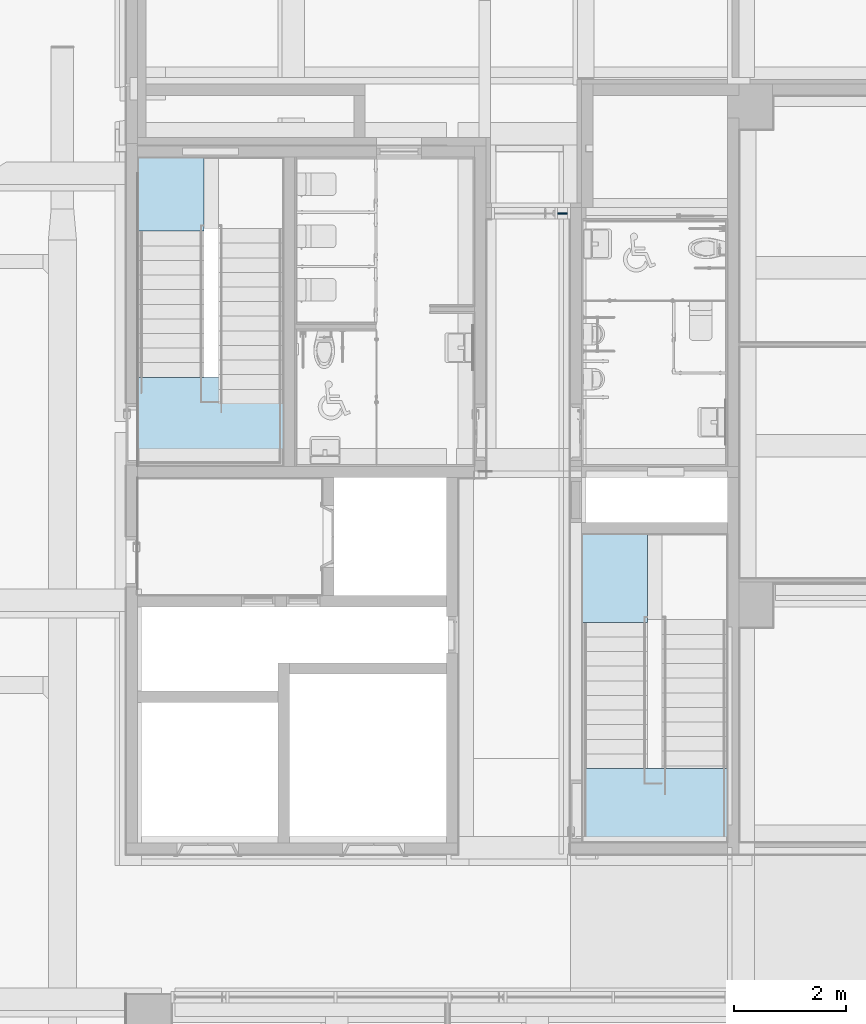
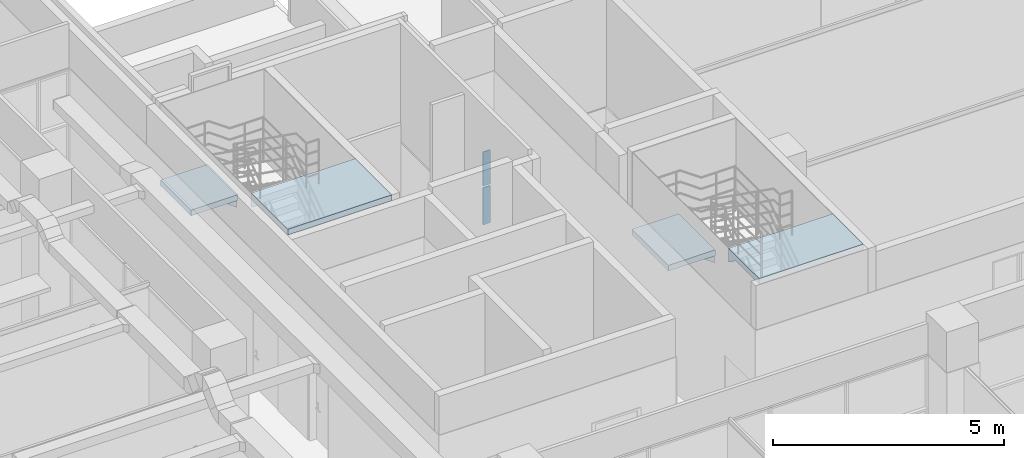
# One storey, part 29 of 100: 4 slabs, 2 plates, 3 elements without a shape of their own.
"""IFC2X3 building model written with IfcOpenShell, lengths in millimetres."""

import ifcopenshell
import ifcopenshell.guid

model = None  # the IFC model being written
_history = None  # IfcOwnerHistory: only IFC2X3 demands one
_inside = {}  # id of a spatial element -> (the spatial element, [elements in it])
_under = {}  # id of a project, library or spatial element -> (it, [spatial elements below it])
_declared = {}  # id of a project -> (the project, [libraries it declares])
_typed = {}  # id of a type object -> (the type object, [elements of that type])
_made_of = {}  # id of a material, layer set ... -> (it, [elements and type objects made of it])


def new_model(schema):
    """Start an empty IFC model of exactly this schema.

    Asked for "IFC4X3", IfcOpenShell would pick the latest addendum, in which some entities
    have other attributes; the version numbers below select the first issue.
    IFC2X3 requires an IfcOwnerHistory on every rooted entity: one is made here for all.
    """
    global model, _history
    if schema == "IFC4X3":
        model = ifcopenshell.file(schema_version=(4, 3, 0, 0))
    else:
        model = ifcopenshell.file(schema=schema)
    _inside.clear()
    _under.clear()
    _declared.clear()
    _typed.clear()
    _made_of.clear()
    _history = None
    if model.schema == "IFC2X3":
        org = make("IfcOrganization", Name="unknown")
        user = make(
            "IfcPersonAndOrganization",
            ThePerson=make("IfcPerson", FamilyName="unknown"),
            TheOrganization=org,
        )
        app = make(
            "IfcApplication",
            ApplicationDeveloper=org,
            Version="unknown",
            ApplicationFullName="unknown",
            ApplicationIdentifier="unknown",
        )
        _history = make(
            "IfcOwnerHistory",
            OwningUser=user,
            OwningApplication=app,
            ChangeAction="ADDED",
            CreationDate=0,
        )
    return model


def make(cls, **values):
    """One entity of the class cls with the attributes given. An attribute that is None is left unset."""
    return model.create_entity(
        cls, **{name: value for name, value in values.items() if value is not None}
    )


def entity(cls, *values):
    """Any entity or typed value of the class cls, its attributes in the order of the schema. None: left unset."""
    e = model.create_entity(cls)
    for i, value in enumerate(values):
        if value is not None:
            e[i] = value
    return e


def rooted(cls, **values):
    """An entity with a GlobalId (a new one), such as an element, a storey or a relation."""
    return make(cls, GlobalId=ifcopenshell.guid.new(), OwnerHistory=_history, **values)


def si_unit(unit_type, name, prefix=None):
    """IfcSIUnit, for example si_unit("LENGTHUNIT", "METRE", prefix="MILLI")."""
    return make("IfcSIUnit", UnitType=unit_type, Prefix=prefix, Name=name)


def converted_unit(unit_type, name, factor, base, dimensions=None, offset=None):
    """IfcConversionBasedUnit, such as the inch: factor (a typed value) times the base unit."""
    return make(
        "IfcConversionBasedUnit"
        if offset is None
        else "IfcConversionBasedUnitWithOffset",
        ConversionOffset=offset,
        Dimensions=None
        if dimensions is None
        else entity("IfcDimensionalExponents", *dimensions),
        UnitType=unit_type,
        Name=name,
        ConversionFactor=make(
            "IfcMeasureWithUnit", ValueComponent=factor, UnitComponent=base
        ),
    )


def derived_unit(unit_type, elements):
    """IfcDerivedUnit: a product of units, each with its exponent."""
    return make(
        "IfcDerivedUnit",
        Elements=[
            make("IfcDerivedUnitElement", Unit=unit, Exponent=power)
            for unit, power in elements
        ],
        UnitType=unit_type,
    )


def assignment(units):
    """IfcUnitAssignment: the units of a project."""
    return None if units is None else make("IfcUnitAssignment", Units=units)


def point(xyz):
    """IfcCartesianPoint."""
    return None if xyz is None else make("IfcCartesianPoint", Coordinates=xyz)


def direction(xyz):
    """IfcDirection."""
    return None if xyz is None else make("IfcDirection", DirectionRatios=xyz)


def frame(location, z_axis=None, x_axis=None):
    """IfcAxis2Placement3D, a coordinate frame: its origin and axes. An axis left out is left unset."""
    return make(
        "IfcAxis2Placement3D",
        Location=point(location),
        Axis=direction(z_axis),
        RefDirection=direction(x_axis),
    )


def frame_2d(location, x_axis=None):
    """IfcAxis2Placement2D, a coordinate frame in the plane: its origin and x axis."""
    return make(
        "IfcAxis2Placement2D", Location=point(location), RefDirection=direction(x_axis)
    )


def origin():
    """The frame at (0, 0, 0) with its axes left unset."""
    return frame((0.0, 0.0, 0.0))


def origin_2d_with_axis():
    """The frame at (0, 0) in the plane with the x axis (1, 0) written out."""
    return frame_2d((0.0, 0.0), x_axis=(1.0, 0.0))


def place(relative_to, where):
    """IfcLocalPlacement: puts the frame where relative to a parent placement (None: the world)."""
    return make(
        "IfcLocalPlacement", PlacementRelTo=relative_to, RelativePlacement=where
    )


def context(
    kind, dimensions, precision=None, world=None, true_north=None, identifier=None
):
    """IfcGeometricRepresentationContext, for example the 3D "Model" context."""
    return make(
        "IfcGeometricRepresentationContext",
        ContextIdentifier=identifier,
        ContextType=kind,
        CoordinateSpaceDimension=dimensions,
        Precision=precision,
        WorldCoordinateSystem=world,
        TrueNorth=true_north,
    )


def subcontext(parent, identifier, kind, view, scale=None):
    """IfcGeometricRepresentationSubContext, for example "Body" below "Model"."""
    return make(
        "IfcGeometricRepresentationSubContext",
        ContextIdentifier=identifier,
        ContextType=kind,
        ParentContext=parent,
        TargetScale=scale,
        TargetView=view,
    )


def project(units=None, contexts=None):
    """IfcProject with its units and contexts."""
    return rooted(
        "IfcProject",
        Name="project",
        RepresentationContexts=contexts,
        UnitsInContext=assignment(units),
    )


def spatial(cls, under=None, at=None, **own):
    """A site, building, storey or space (cls), placed at a placement, below another one or the project."""
    s = rooted(cls, ObjectPlacement=at, **own)
    if under is not None:
        _under.setdefault(under.id(), (under, []))[1].append(s)
    return s


def profile(cls, at=None, kind="AREA", **sizes):
    """A parametric profile (cls). Its sizes go by their IFC names, for example OverallWidth=200.0."""
    return make(cls, ProfileType=kind, Position=at, **sizes)


def rectangle(**sizes):
    """IfcRectangleProfileDef."""
    return profile("IfcRectangleProfileDef", **sizes)


def extrude(swept, where, along, depth):
    """IfcExtrudedAreaSolid: the profile swept, set in the frame where, extruded along a direction by depth."""
    return make(
        "IfcExtrudedAreaSolid",
        SweptArea=swept,
        Position=where,
        ExtrudedDirection=direction(along),
        Depth=depth,
    )


def faces_of(points, faces, orient=None, outer=None):
    """IfcFace entities. A face is a list of loops; a loop is a list of indices into points, from 0.

    orient and outer hold one flag for each loop. By default every Orientation is true, the
    first loop of a face is its IfcFaceOuterBound and the others are IfcFaceBound.
    """
    made = []
    for i, loops in enumerate(faces):
        bounds = []
        for j, loop in enumerate(loops):
            is_outer = j == 0 if outer is None else outer[i][j]
            bounds.append(
                make(
                    "IfcFaceOuterBound" if is_outer else "IfcFaceBound",
                    Bound=make("IfcPolyLoop", Polygon=[points[k] for k in loop]),
                    Orientation=True if orient is None else orient[i][j],
                )
            )
        made.append(make("IfcFace", Bounds=bounds))
    return made


def faceted_brep(points, faces, orient=None, outer=None, voids=None):
    """IfcFacetedBrep: a solid bounded by flat faces; with voids (closed shells), ...WithVoids."""
    shared = [point(p) for p in points]
    hull = make("IfcClosedShell", CfsFaces=faces_of(shared, faces, orient, outer))
    if voids is None:
        return make("IfcFacetedBrep", Outer=hull)
    return make(
        "IfcFacetedBrepWithVoids",
        Outer=hull,
        Voids=[
            make(cls, CfsFaces=faces_of(shared, fs, o, b)) for cls, fs, o, b in voids
        ],
    )


def shape(context_of_items, identifier, shape_type, items):
    """IfcShapeRepresentation: the items that make up one representation, for example the "Body"."""
    return make(
        "IfcShapeRepresentation",
        ContextOfItems=context_of_items,
        RepresentationIdentifier=identifier,
        RepresentationType=shape_type,
        Items=items,
    )


def source(mapping_origin, context_of_items, identifier, shape_type, items):
    """IfcRepresentationMap: a shape defined once, which mapped items show again and again."""
    return make(
        "IfcRepresentationMap",
        MappingOrigin=mapping_origin,
        MappedRepresentation=shape(context_of_items, identifier, shape_type, items),
    )


def transform(
    local_origin,
    x_axis=None,
    y_axis=None,
    z_axis=None,
    scale=None,
    scale2=None,
    scale3=None,
    uniform=True,
):
    """IfcCartesianTransformationOperator3D, or its non-uniform kind. x_axis, y_axis, z_axis: its Axis1, 2, 3."""
    if uniform:
        return make(
            "IfcCartesianTransformationOperator3D",
            Axis1=direction(x_axis),
            Axis2=direction(y_axis),
            LocalOrigin=point(local_origin),
            Scale=scale,
            Axis3=direction(z_axis),
        )
    return make(
        "IfcCartesianTransformationOperator3DnonUniform",
        Axis1=direction(x_axis),
        Axis2=direction(y_axis),
        LocalOrigin=point(local_origin),
        Scale=scale,
        Axis3=direction(z_axis),
        Scale2=scale2,
        Scale3=scale3,
    )


def mapped(mapping_source, mapping_target):
    """IfcMappedItem: shows the shape of a source again, moved by a transform."""
    return make(
        "IfcMappedItem", MappingSource=mapping_source, MappingTarget=mapping_target
    )


def material(Name=None, Category=None):
    """IfcMaterial."""
    return make("IfcMaterial", Name=Name, Category=Category)


def made_of(thing, what):
    """Note that an element or type object is made of a material, layer set ...; save() writes the relation."""
    if what is not None:
        _made_of.setdefault(what.id(), (what, []))[1].append(thing)
    return thing


def type_object(cls, material=None, **own):
    """A type object (cls), such as IfcWallType, which elements share."""
    return made_of(rooted(cls, **own), material)


def type_shapes(of_type, sources):
    """Give a type object the sources (RepresentationMaps) that its elements show as mapped items."""
    of_type.RepresentationMaps = sources


def element(
    cls,
    number,
    at=None,
    inside=None,
    cuts=None,
    type_object=None,
    material=None,
    context=None,
    identifier="Body",
    shape_type=None,
    held_by="IfcProductDefinitionShape",
    body=None,
    shapes=None,
    **own,
):
    """One element of the class cls, such as IfcWall. Its Tag is "e" and its number.

    at: its placement. inside: the storey or other place that contains it. cuts: it is an
    opening in that element (IfcRelVoidsElement). A single representation is given by context,
    identifier, shape_type and body (its items); several are given by shapes. held_by: the class
    of the entity that holds the representations. save() writes the other relations.
    """
    e = rooted(cls, Tag="e%d" % number, ObjectPlacement=at, **own)
    if body is not None:
        shapes = [shape(context, identifier, shape_type, body)]
    if shapes is not None:
        e.Representation = make(held_by, Representations=shapes)
    if inside is not None:
        _inside.setdefault(inside.id(), (inside, []))[1].append(e)
    if cuts is not None:
        rooted(
            "IfcRelVoidsElement", RelatingBuildingElement=cuts, RelatedOpeningElement=e
        )
    if type_object is not None:
        _typed.setdefault(type_object.id(), (type_object, []))[1].append(e)
    return made_of(e, material)


def aggregate(whole, parts):
    """IfcRelAggregates: a whole, such as a stair, and the parts it consists of."""
    return rooted("IfcRelAggregates", RelatingObject=whole, RelatedObjects=parts)


def save(model, path):
    """Write the relations noted so far, then the file.

    IfcRelAggregates (storeys below a building ...), IfcRelContainedInSpatialStructure (elements
    in a storey), IfcRelDefinesByType, IfcRelAssociatesMaterial and IfcRelDeclares: one each for
    every whole, place, type object, material and project.
    """
    for whole, parts in _under.values():
        aggregate(whole, parts)
    for where, things in _inside.values():
        rooted(
            "IfcRelContainedInSpatialStructure",
            RelatedElements=things,
            RelatingStructure=where,
        )
    for kind, things in _typed.values():
        rooted("IfcRelDefinesByType", RelatedObjects=things, RelatingType=kind)
    for what, things in _made_of.values():
        rooted("IfcRelAssociatesMaterial", RelatedObjects=things, RelatingMaterial=what)
    for by, libraries in _declared.values():
        rooted("IfcRelDeclares", RelatingContext=by, RelatedDefinitions=libraries)
    model.write(path)


model = new_model("IFC2X3")

# Units and contexts
model_context = context("Model", 3, precision=0.01, world=origin(), true_north=direction((6.123031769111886e-17, 1.0)))
body_context = subcontext(model_context, "Body", "Model", "MODEL_VIEW")
ifc_project = project(units=[si_unit("LENGTHUNIT", "METRE", prefix="MILLI"), si_unit("AREAUNIT", "SQUARE_METRE"), si_unit("VOLUMEUNIT", "CUBIC_METRE"), converted_unit("PLANEANGLEUNIT", "DEGREE", entity("IfcRatioMeasure", 0.017453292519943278), si_unit("PLANEANGLEUNIT", "RADIAN"), dimensions=[0, 0, 0, 0, 0, 0, 0]), si_unit("MASSUNIT", "GRAM", prefix="KILO"), derived_unit("MASSDENSITYUNIT", [(si_unit("MASSUNIT", "GRAM", prefix="KILO"), 1), (si_unit("LENGTHUNIT", "METRE"), -3)]), derived_unit("MOMENTOFINERTIAUNIT", [(si_unit("LENGTHUNIT", "METRE"), 4)]), si_unit("TIMEUNIT", "SECOND"), si_unit("FREQUENCYUNIT", "HERTZ"), si_unit("THERMODYNAMICTEMPERATUREUNIT", "DEGREE_CELSIUS"), derived_unit("THERMALTRANSMITTANCEUNIT", [(si_unit("MASSUNIT", "GRAM", prefix="KILO"), 1), (si_unit("THERMODYNAMICTEMPERATUREUNIT", "KELVIN"), -1), (si_unit("TIMEUNIT", "SECOND"), -3)]), derived_unit("VOLUMETRICFLOWRATEUNIT", [(si_unit("LENGTHUNIT", "METRE"), 3), (si_unit("TIMEUNIT", "SECOND"), -1)]), derived_unit("MASSFLOWRATEUNIT", [(si_unit("MASSUNIT", "GRAM", prefix="KILO"), 1), (si_unit("TIMEUNIT", "SECOND"), -1)]), derived_unit("ROTATIONALFREQUENCYUNIT", [(si_unit("TIMEUNIT", "SECOND"), -1)]), si_unit("ELECTRICCURRENTUNIT", "AMPERE"), si_unit("ELECTRICVOLTAGEUNIT", "VOLT"), si_unit("POWERUNIT", "WATT"), si_unit("FORCEUNIT", "NEWTON", prefix="KILO"), si_unit("ILLUMINANCEUNIT", "LUX"), si_unit("LUMINOUSFLUXUNIT", "LUMEN"), si_unit("LUMINOUSINTENSITYUNIT", "CANDELA"), derived_unit("USERDEFINED", [(si_unit("MASSUNIT", "GRAM", prefix="KILO"), -1), (si_unit("LENGTHUNIT", "METRE"), -2), (si_unit("TIMEUNIT", "SECOND"), 3), (si_unit("LUMINOUSFLUXUNIT", "LUMEN"), 1)]), derived_unit("SOUNDPOWERUNIT", [(si_unit("MASSUNIT", "GRAM", prefix="KILO"), 1), (si_unit("LENGTHUNIT", "METRE"), 2), (si_unit("TIMEUNIT", "SECOND"), -3)]), derived_unit("SOUNDPRESSUREUNIT", [(si_unit("MASSUNIT", "GRAM", prefix="KILO"), 1), (si_unit("LENGTHUNIT", "METRE"), -1), (si_unit("TIMEUNIT", "SECOND"), -2)]), derived_unit("LINEARVELOCITYUNIT", [(si_unit("LENGTHUNIT", "METRE"), 1), (si_unit("TIMEUNIT", "SECOND"), -1)]), si_unit("PRESSUREUNIT", "PASCAL"), derived_unit("USERDEFINED", [(si_unit("LENGTHUNIT", "METRE"), -2), (si_unit("MASSUNIT", "GRAM", prefix="KILO"), 1), (si_unit("TIMEUNIT", "SECOND"), -2)]), derived_unit("LINEARFORCEUNIT", [(si_unit("MASSUNIT", "GRAM", prefix="KILO"), 1), (si_unit("LENGTHUNIT", "METRE"), 1), (si_unit("TIMEUNIT", "SECOND"), -2), (si_unit("LENGTHUNIT", "METRE"), -1)]), derived_unit("PLANARFORCEUNIT", [(si_unit("MASSUNIT", "GRAM", prefix="KILO"), 1), (si_unit("LENGTHUNIT", "METRE"), 1), (si_unit("TIMEUNIT", "SECOND"), -2), (si_unit("LENGTHUNIT", "METRE"), -2)])], contexts=[model_context])

# Site, building, storey
site_placement = place(None, frame((-14167.972527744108, -657.2125860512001, 0.0)))
site = spatial("IfcSite", under=ifc_project, at=site_placement, Name="Default", CompositionType="ELEMENT")
building_placement = place(site_placement, origin())
building = spatial("IfcBuilding", under=site, at=building_placement, Name="Sample Building", CompositionType="ELEMENT")
storey_placement = place(building_placement, origin())
storey = spatial("IfcBuildingStorey", under=building, at=storey_placement, Name="지상 1층", CompositionType="ELEMENT", Elevation=0.0)

# Curtain wall, plates
curtain_wall_type = type_object("IfcCurtainWallType", Name="커튼월:CW112-스테인리스 스틸 커튼월", PredefinedType="NOTDEFINED")
curtain_wall_placement = place(storey_placement, origin())
curtain_wall = element("IfcCurtainWall", 1, at=curtain_wall_placement, inside=storey, type_object=curtain_wall_type, Name="커튼월:CW112-스테인리스 스틸 커튼월", ObjectType="커튼월:CW112-스테인리스 스틸 커튼월")
ifc_material_1 = material(Name="KBIMS-로이유리(코팅)")
plate_type_1 = type_object("IfcPlateType", Name="CW300-THK24.Low-e coating glass:CW300-THK24.Low-e coating glass", PredefinedType="CURTAIN_PANEL", material=ifc_material_1)
shared_shape_1 = source(origin(), body_context, "Body", "SweptSolid", [
    extrude(rectangle(XDim=175.00000000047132, YDim=24.000000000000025, at=origin_2d_with_axis()), frame((0.0, 0.0, 0.0), z_axis=(0.0, 0.0, 1.0), x_axis=(-1.0, 0.0, 0.0)), (0.0, 0.0, 1.0), 975.0000000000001),
])
type_shapes(plate_type_1, [shared_shape_1])
plate_1_placement = place(curtain_wall_placement, frame((37830.46379814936, 26957.21229514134, -420.0)))
plate_1 = element("IfcPlate", 2, at=plate_1_placement, type_object=plate_type_1, material=ifc_material_1, Name="CW300-THK24.Low-e coating glass:CW300-THK24.Low-e coating glass", ObjectType="CW300-THK24.Low-e coating glass:CW300-THK24.Low-e coating glass", context=body_context, shape_type="MappedRepresentation", body=[
    mapped(shared_shape_1, transform((0.0, 0.0, 0.0), scale=1.0)),
])
plate_type_2 = type_object("IfcPlateType", Name="CW300-THK24.Low-e coating glass:CW300-THK24.Low-e coating glass", PredefinedType="CURTAIN_PANEL", material=ifc_material_1)
shared_shape_2 = source(origin(), body_context, "Body", "SweptSolid", [
    extrude(rectangle(XDim=175.00000000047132, YDim=24.000000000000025, at=origin_2d_with_axis()), frame((0.0, 0.0, 0.0), z_axis=(0.0, 0.0, 1.0), x_axis=(-1.0, 0.0, 0.0)), (0.0, 0.0, 1.0), 895.0000000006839),
])
type_shapes(plate_type_2, [shared_shape_2])
plate_2_placement = place(curtain_wall_placement, frame((37830.46379814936, 26957.21229514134, 605.0)))
plate_2 = element("IfcPlate", 3, at=plate_2_placement, type_object=plate_type_2, material=ifc_material_1, Name="CW300-THK24.Low-e coating glass:CW300-THK24.Low-e coating glass", ObjectType="CW300-THK24.Low-e coating glass:CW300-THK24.Low-e coating glass", context=body_context, shape_type="MappedRepresentation", body=[
    mapped(shared_shape_2, transform((0.0, 0.0, 0.0), scale=1.0)),
])
aggregate(curtain_wall, [plate_1, plate_2])

# Stair, slabs
stair_1_placement = place(storey_placement, origin())
stair_1 = element("IfcStair", 4, at=stair_1_placement, inside=storey, Name="현장타설 계단:계단", ObjectType="현장타설 계단:ST111-철근콘크리트구조 계단 (U형)", ShapeType="NOTDEFINED")
ifc_material_2 = material(Name="KBIMS-콘크리트")
slab_type_1 = type_object("IfcSlabType", Name="일체형 계단참:일체형 계단참 150mm_철근콘크리트", PredefinedType="LANDING")
slab_1_placement = place(stair_1_placement, frame((30276.125814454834, 26639.725729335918, 0.0)))
slab_1 = element("IfcSlab", 5, at=slab_1_placement, type_object=slab_type_1, material=ifc_material_2, Name="현장타설 계단:계단:5949467 Landing 2", ObjectType="일체형 계단참:일체형 계단참 150mm_철근콘크리트", PredefinedType="LANDING", context=body_context, shape_type="Brep", body=[
    faceted_brep([(1171.8545000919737, 47.48657865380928, 2769.230769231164), (1171.8545000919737, 1317.4865786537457, 2769.230769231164), (864.0165565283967, 1317.4865786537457, 2769.230769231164), (0.0, 1317.4865786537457, 2769.230769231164), (0.0, 0.0, 2769.230769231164), (1171.8545000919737, 0.0, 2769.230769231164), (0.0, 1317.4865786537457, 2619.230769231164), (0.0, 0.0, 2619.230769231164), (1171.8545000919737, 0.0, 2619.230769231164), (1171.8545000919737, 47.48657865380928, 2619.230769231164), (864.0165565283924, 1317.4865786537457, 2619.230769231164), (864.0165565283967, 47.48657865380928, 2619.230769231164), (1171.8545000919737, 1317.4865786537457, 2400.6476140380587), (1171.8545000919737, 47.48657865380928, 2400.647614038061), (1171.8545000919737, 47.48657865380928, 2584.6153846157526), (1171.8545000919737, 1317.4865786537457, 2584.6153846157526)], [[[0, 1, 2, 3, 4, 5]], [[4, 3, 6, 7]], [[0, 5, 8, 9]], [[10, 11, 9, 8, 7, 6]], [[11, 10, 12, 13]], [[9, 11, 13, 14]], [[1, 0, 9, 14, 13, 12, 15]], [[1, 15, 12, 10, 6, 3, 2]], [[5, 4, 7, 8]]]),
])
slab_type_2 = type_object("IfcSlabType", Name="일체형 계단참:일체형 계단참 150mm_철근콘크리트", PredefinedType="LANDING")
slab_2_placement = place(stair_1_placement, frame((30276.125814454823, 22457.21231133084, 0.0)))
slab_2 = element("IfcSlab", 6, at=slab_2_placement, type_object=slab_type_2, material=ifc_material_2, Name="현장타설 계단:계단:5949467 Landing 3", ObjectType="일체형 계단참:일체형 계단참 150mm_철근콘크리트", PredefinedType="LANDING", context=body_context, shape_type="Brep", body=[
    faceted_brep([(1171.854500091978, 1582.5134180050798, 4800.0), (0.0, 1582.5134180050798, 4800.0), (0.0, 1274.6754744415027, 4800.0), (0.0, 0.0, 4800.0), (2601.8466766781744, 0.0, 4800.0), (2601.8466766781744, 1582.5134180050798, 4800.0), (0.0, 1582.5134180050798, 4615.384615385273), (0.0, 1582.513418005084, 4431.416844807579), (0.0, 1274.6754744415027, 4650.0), (0.0, 0.0, 4650.0), (2601.8466766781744, 0.0, 4650.0), (2601.8466766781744, 1582.5134180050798, 4650.0), (1171.854500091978, 1274.6754744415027, 4650.0), (1171.854500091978, 1582.5134180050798, 4650.0), (1171.854500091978, 1582.5134180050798, 4615.384615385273), (1171.854500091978, 1582.5134180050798, 4431.416844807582)], [[[0, 1, 2, 3, 4, 5]], [[1, 6, 7, 8, 9, 3, 2]], [[4, 3, 9, 10]], [[5, 4, 10, 11]], [[8, 12, 13, 11, 10, 9]], [[1, 0, 13, 14, 15, 7, 6]], [[0, 5, 11, 13]], [[12, 8, 7, 15]], [[13, 12, 15, 14]]]),
])
aggregate(stair_1, [slab_1, slab_2])

stair_2_placement = place(storey_placement, origin())
stair_2 = element("IfcStair", 7, at=stair_2_placement, inside=storey, Name="현장타설 계단:계단", ObjectType="현장타설 계단:ST111-철근콘크리트구조 계단 (U형)", ShapeType="NOTDEFINED")
slab_type_3 = type_object("IfcSlabType", Name="일체형 계단참:일체형 계단참 150mm_철근콘크리트", PredefinedType="LANDING")
slab_3_placement = place(stair_2_placement, frame((38167.96379814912, 19679.725713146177, 0.0)))
slab_3 = element("IfcSlab", 8, at=slab_3_placement, type_object=slab_type_3, material=ifc_material_2, Name="현장타설 계단:계단:5959493 Landing 2", ObjectType="일체형 계단참:일체형 계단참 150mm_철근콘크리트", PredefinedType="LANDING", context=body_context, shape_type="Brep", body=[
    faceted_brep([(1171.854500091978, 47.486578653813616, 2769.230769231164), (1171.854500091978, 1577.4865786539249, 2769.230769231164), (864.0165565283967, 1577.4865786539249, 2769.230769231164), (0.0, 1577.4865786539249, 2769.230769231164), (0.0, 0.0, 2769.230769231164), (1171.8545000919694, 0.0, 2769.230769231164), (0.0, 1577.4865786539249, 2619.230769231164), (0.0, 0.0, 2619.230769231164), (1171.8545000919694, 0.0, 2619.230769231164), (1171.854500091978, 47.486578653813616, 2619.230769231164), (864.0165565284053, 1577.4865786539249, 2619.230769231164), (864.0165565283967, 47.486578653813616, 2619.230769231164), (1171.854500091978, 1577.4865786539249, 2400.6476140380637), (1171.854500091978, 47.486578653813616, 2400.647614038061), (1171.854500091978, 47.486578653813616, 2584.6153846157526), (1171.854500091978, 1577.4865786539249, 2584.6153846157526)], [[[0, 1, 2, 3, 4, 5]], [[4, 3, 6, 7]], [[0, 5, 8, 9]], [[10, 11, 9, 8, 7, 6]], [[11, 10, 12, 13]], [[9, 11, 13, 14]], [[1, 0, 9, 14, 13, 12, 15]], [[1, 15, 12, 10, 6, 3, 2]], [[5, 4, 7, 8]]]),
])
slab_type_4 = type_object("IfcSlabType", Name="일체형 계단참:일체형 계단참 150mm_철근콘크리트", PredefinedType="LANDING")
slab_4_placement = place(stair_2_placement, frame((38167.96379814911, 15757.212295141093, 0.0)))
slab_4 = element("IfcSlab", 9, at=slab_4_placement, type_object=slab_type_4, material=ifc_material_2, Name="현장타설 계단:계단:5959493 Landing 3", ObjectType="일체형 계단참:일체형 계단참 150mm_철근콘크리트", PredefinedType="LANDING", context=body_context, shape_type="Brep", body=[
    faceted_brep([(1171.8545000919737, 1322.5134180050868, 4800.0), (0.0, 1322.5134180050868, 4800.0), (0.0, 1014.67547444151, 4800.0), (0.0, 0.0, 4800.0), (2601.8466766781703, 0.0, 4800.0), (2601.8466766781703, 1322.5134180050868, 4800.0), (0.0, 1322.5134180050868, 4615.384615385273), (0.0, 1322.5134180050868, 4431.416844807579), (0.0, 1014.6754744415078, 4650.0), (0.0, 0.0, 4650.0), (2601.8466766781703, 0.0, 4650.0), (2601.8466766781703, 1322.5134180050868, 4650.0), (1171.854500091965, 1014.67547444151, 4650.0), (1171.8545000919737, 1322.5134180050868, 4650.0), (1171.854500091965, 1322.5134180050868, 4615.384615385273), (1171.8545000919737, 1322.5134180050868, 4431.416844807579)], [[[0, 1, 2, 3, 4, 5]], [[1, 6, 7, 8, 9, 3, 2]], [[4, 3, 9, 10]], [[5, 4, 10, 11]], [[8, 12, 13, 11, 10, 9]], [[1, 0, 13, 14, 15, 7, 6]], [[0, 5, 11, 13]], [[12, 8, 7, 15]], [[13, 12, 15, 14]]]),
])
aggregate(stair_2, [slab_3, slab_4])

save(model, "model.ifc")
